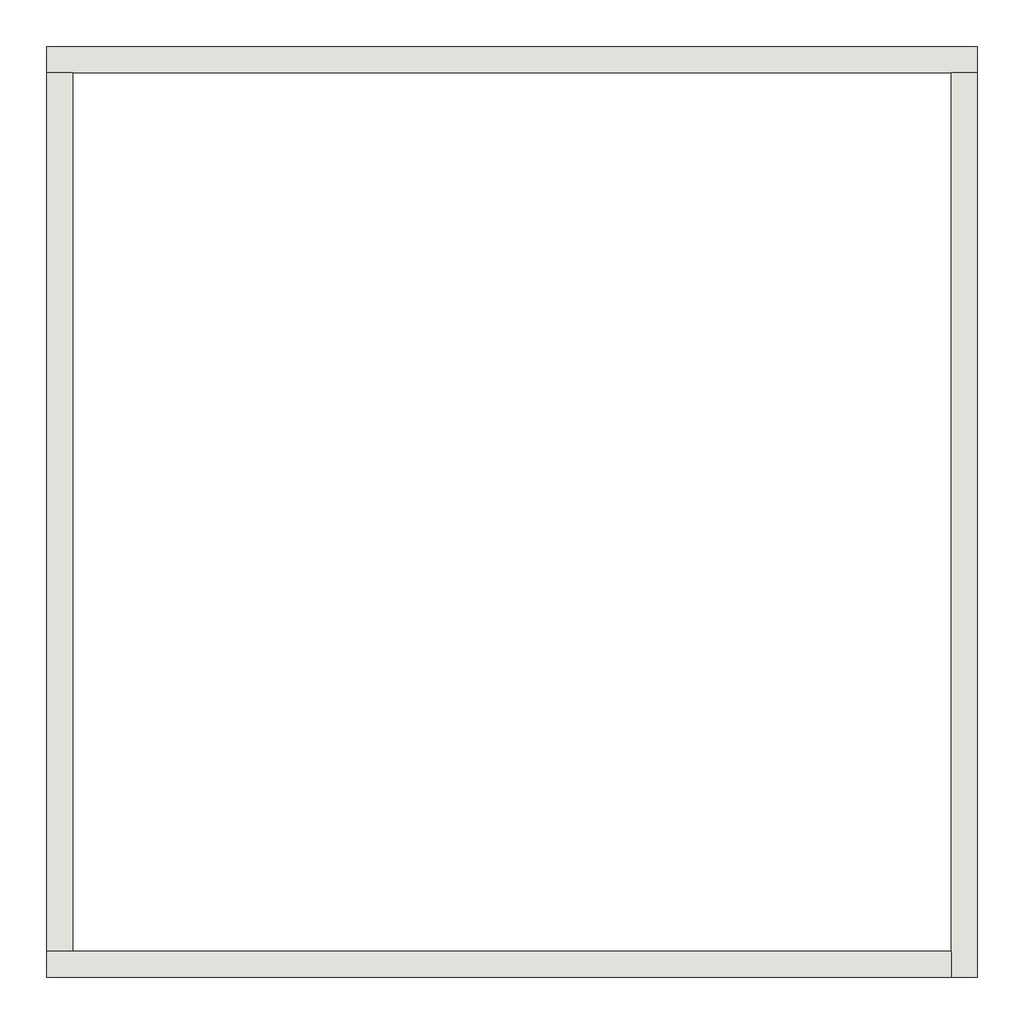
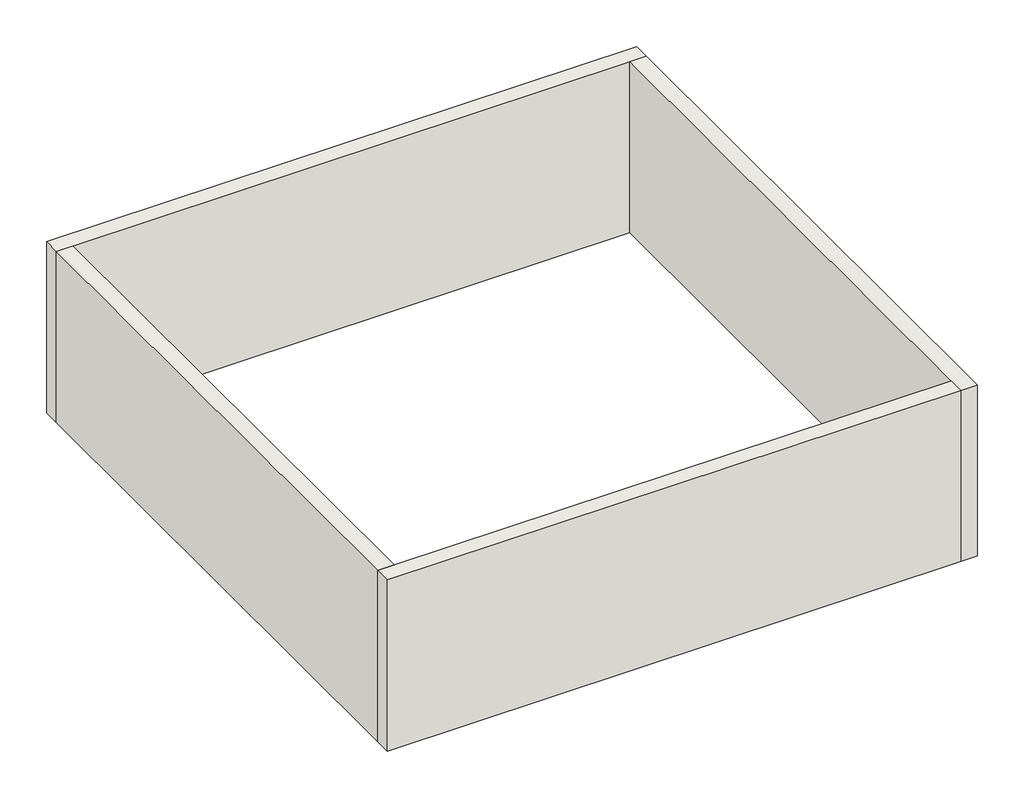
# Not in any storey: 4 walls.
"""IFC4 building model written with IfcOpenShell, lengths in millimetres."""

from ifc_helpers import new_model, si_unit, origin, origin_with_axes, place, context, project, spatial, polyline, outline, extrude, faceted_brep, element, save

model = new_model("IFC4")

# Units and contexts
model_context = context("Model", 3, world=origin())
ifc_project = project(units=[si_unit("LENGTHUNIT", "METRE", prefix="MILLI")], contexts=[model_context])

# Site, building
site = spatial("IfcSite", under=ifc_project)
building = spatial("IfcBuilding", under=site)

# Walls
placement = place(None, origin())
element("IfcWall", 1, ObjectType="KSI 240", at=placement, inside=building, context=model_context, shape_type="Brep", body=[
    faceted_brep([(12284.5263264, 23207.8182381, 0.0), (12524.5263341, 23207.8182381, 0.0), (20524.5263341, 23207.8182381, 0.0), (20764.5263418, 23207.8182381, 0.0), (20764.5263418, 23207.8182381, 2600.0), (20524.5263341, 23207.8182381, 2600.0), (12524.5263341, 23207.8182381, 2600.0), (12284.5263264, 23207.8182381, 2600.0), (12284.5263264, 23447.8182457, 0.0), (12284.5263264, 23447.8182457, 2600.0), (20764.5263418, 23447.8182457, 2600.0), (20764.5263418, 23447.8182457, 0.0)], [[[0, 1, 2, 3, 4, 5, 6, 7]], [[8, 9, 10, 11]], [[3, 2, 1, 0, 8, 11]], [[7, 6, 5, 4, 10, 9]], [[4, 3, 11, 10]], [[0, 7, 9, 8]]]),
])
element("IfcWall", 2, ObjectType="KSI 240", at=placement, inside=building, context=model_context, shape_type="Brep", body=[
    faceted_brep([(20524.5263341, 23207.8182381, 0.0), (20524.5263341, 15207.8182381, 0.0), (20524.5263341, 14967.8182304, 0.0), (20524.5263341, 14967.8182304, 2600.0), (20524.5263341, 15207.8182381, 2600.0), (20524.5263341, 23207.8182381, 2600.0), (20764.5263418, 23207.8182381, 0.0), (20764.5263418, 23207.8182381, 2600.0), (20764.5263418, 14967.8182304, 2600.0), (20764.5263418, 14967.8182304, 0.0)], [[[0, 1, 2, 3, 4, 5]], [[6, 7, 8, 9]], [[2, 1, 0, 6, 9]], [[5, 4, 3, 8, 7]], [[0, 5, 7, 6]], [[3, 2, 9, 8]]]),
])
element("IfcWall", 3, ObjectType="KSI 240", at=placement, inside=building, context=model_context, shape_type="Brep", body=[
    faceted_brep([(20524.5263341, 15207.8182381, 0.0), (12524.5263341, 15207.8182381, 0.0), (12284.5263264, 15207.8182381, 0.0), (12284.5263264, 15207.8182381, 2600.0), (12524.5263341, 15207.8182381, 2600.0), (20524.5263341, 15207.8182381, 2600.0), (20524.5263341, 14967.8182304, 0.0), (20524.5263341, 14967.8182304, 2600.0), (12284.5263264, 14967.8182304, 2600.0), (12284.5263264, 14967.8182304, 0.0)], [[[0, 1, 2, 3, 4, 5]], [[6, 7, 8, 9]], [[2, 1, 0, 6, 9]], [[5, 4, 3, 8, 7]], [[0, 5, 7, 6]], [[3, 2, 9, 8]]]),
])
element("IfcWall", 4, ObjectType="KSI 240", at=placement, inside=building, context=model_context, shape_type="SweptSolid", body=[
    extrude(outline(polyline([(12524.5263341, 23207.8182381), (12524.5263341, 15207.8182381), (12284.5263264, 15207.8182381), (12284.5263264, 23207.8182381), (12524.5263341, 23207.8182381)])), origin_with_axes(), (0.0, 0.0, 1.0), 2600.0),
])

save(model, "model.ifc")
